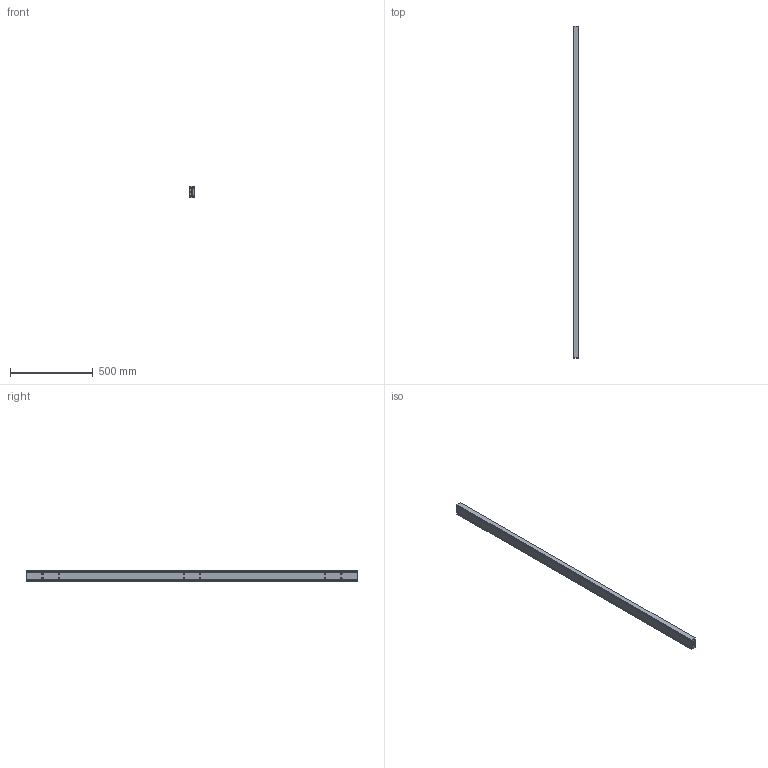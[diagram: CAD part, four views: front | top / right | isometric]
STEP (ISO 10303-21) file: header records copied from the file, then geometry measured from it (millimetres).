
FILE_DESCRIPTION(/* description */ (''),/* implementation_level */ '2;1');
FILE_NAME(/* name */ 'C:\Users\Miluxor\Desktop\Miluxor Schienen\Original Zeichnungen\Zeichnungen Schienen Komplett\MX-DTP70\MX-DTP70.200\MX-DTP70.200_eingefahren.stp',/* time_stamp */ '2020-11-28T15:57:54+01:00',/* author */ ('Miluxor'),/* organization */ (''),/* preprocessor_version */ 'ST-DEVELOPER v16.13',/* originating_system */ 'AutoCAD Mechanical',/* authorisation */ '');
FILE_SCHEMA (('AUTOMOTIVE_DESIGN { 1 0 10303 214 3 1 1 }'));
Length unit declared in the file: millimetre
Products named in the file (1): Product
Bounding box: 32 x 2000.33 x 70 mm (x, y, z)
Volume: 3422484.1 mm3; surface area: 1213720.5 mm2
Topology: 117 solids, 119 shells, 246 faces, 912 edges, 680 vertices
Faces by surface type: sphere 112, plane 82, cylinder 38, bspline 8, torus 6
Full cylindrical faces by diameter (mm): 8 x24, 13 x2
Entity records: 15784 total; most frequent: CARTESIAN_POINT 8344, DIRECTION 1538, ORIENTED_EDGE 1052, VERTEX_POINT 678, AXIS2_PLACEMENT_3D 663, EDGE_CURVE 654, EDGE_LOOP 554, CIRCLE 420
